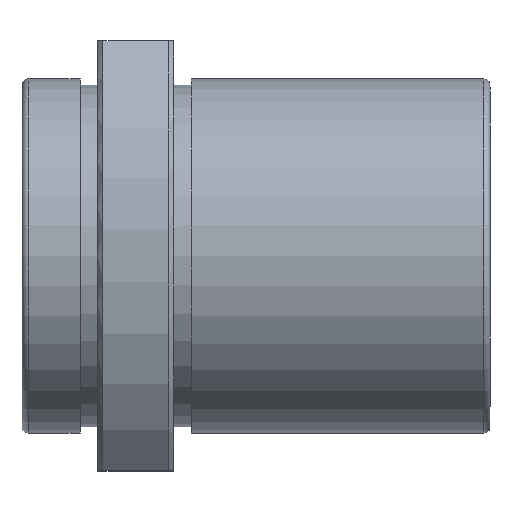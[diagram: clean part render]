
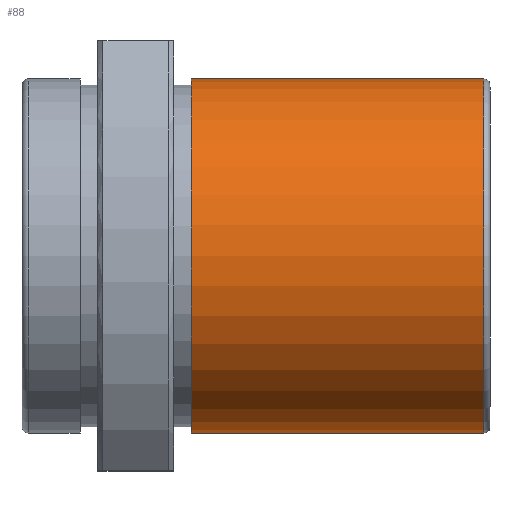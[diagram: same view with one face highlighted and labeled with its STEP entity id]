
A CAD part, top view. The second image highlights one B-rep face of the part: STEP entity #88.
In plain terms, the highlighted cylindrical face has radius 14 mm (diameter 28 mm), a full revolution.
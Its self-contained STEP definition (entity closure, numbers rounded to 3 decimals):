
#88=ADVANCED_FACE('',(#153,#154),#155,.T.);
#153=FACE_OUTER_BOUND('',#252,.T.);
#154=FACE_OUTER_BOUND('',#253,.T.);
#155=CYLINDRICAL_SURFACE('',#254,14.0);
#252=EDGE_LOOP('',(#396));
#253=EDGE_LOOP('',(#397));
#254=AXIS2_PLACEMENT_3D('',#398,#399,#400);
#396=ORIENTED_EDGE('',*,*,#546,.T.);
#397=ORIENTED_EDGE('',*,*,#538,.T.);
#398=CARTESIAN_POINT('',(25.0,0.,0.));
#399=DIRECTION('',(1.0,0.,0.));
#400=DIRECTION('',(0.,-1.0,0.));
#538=EDGE_CURVE('',#615,#615,#616,.F.);
#546=EDGE_CURVE('',#630,#630,#631,.T.);
#615=VERTEX_POINT('',#732);
#616=CIRCLE('',#733,14.0);
#630=VERTEX_POINT('',#750);
#631=CIRCLE('',#751,14.0);
#732=CARTESIAN_POINT('',(24.5,0.,-14.0));
#733=AXIS2_PLACEMENT_3D('',#843,#844,#845);
#750=CARTESIAN_POINT('',(1.4,0.,-14.0));
#751=AXIS2_PLACEMENT_3D('',#864,#865,#866);
#843=CARTESIAN_POINT('',(24.5,0.,0.));
#844=DIRECTION('',(1.0,0.,0.));
#845=DIRECTION('',(0.,0.0,-1.0));
#864=CARTESIAN_POINT('',(1.4,0.,0.));
#865=DIRECTION('',(1.0,0.,0.));
#866=DIRECTION('',(0.,0.0,-1.0));
